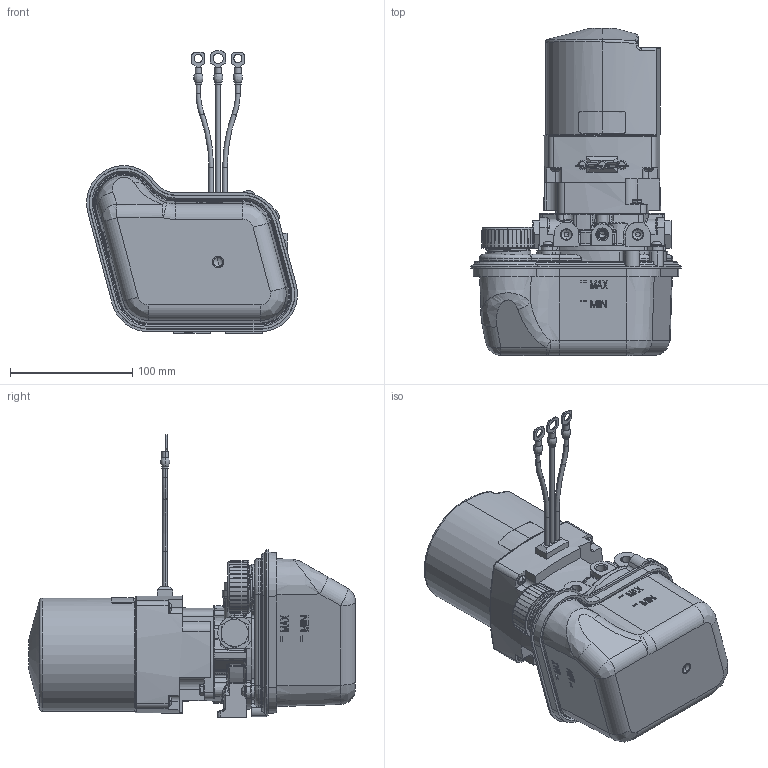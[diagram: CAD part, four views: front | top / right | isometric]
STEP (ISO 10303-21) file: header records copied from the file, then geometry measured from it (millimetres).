
FILE_DESCRIPTION((''),'2;1');
FILE_NAME('645359_ASM','2014-10-07T',('GB10196'),('OILDYNE'),'PRO/ENGINEER BY PARAMETRIC TECHNOLOGY CORPORATION, 2009300','PRO/ENGINEER BY PARAMETRIC TECHNOLOGY CORPORATION, 2009300','');
FILE_SCHEMA(('CONFIG_CONTROL_DESIGN'));
Products named in the file (12): 206046; 108RES_BOT_AF0; PN413358_AF0; 413358_ASM; 413222; 414536; 413767; HOLLOW_HEX_PLUG_ALUM; 410728; 773764_ASM; 415000; 645359_ASM
Assembly tree (16 placements, depth 3):
  645359_ASM
    206046
    413358_ASM
      108RES_BOT_AF0
      PN413358_AF0
    413222  x4
    414536
    413767
    773764_ASM  x2
      HOLLOW_HEX_PLUG_ALUM
      410728
    415000  x2
Bounding box: 172.35 x 267.43 x 231.13 mm (x, y, z)
Volume: 1435933.1 mm3; surface area: 295648.9 mm2
Topology: 16 solids, 26 shells, 3901 faces, 9854 edges, 5976 vertices
Faces by surface type: plane 1407, bspline 820, cylinder 773, torus 423, cone 386, sphere 87, revolution 3, extrusion 2
Entity records: 157616 total; most frequent: CARTESIAN_POINT 72854, ORIENTED_EDGE 18658, DIRECTION 16453, EDGE_CURVE 9347, AXIS2_PLACEMENT_3D 6171, VERTEX_POINT 5792, VECTOR 4108, LINE 4106
